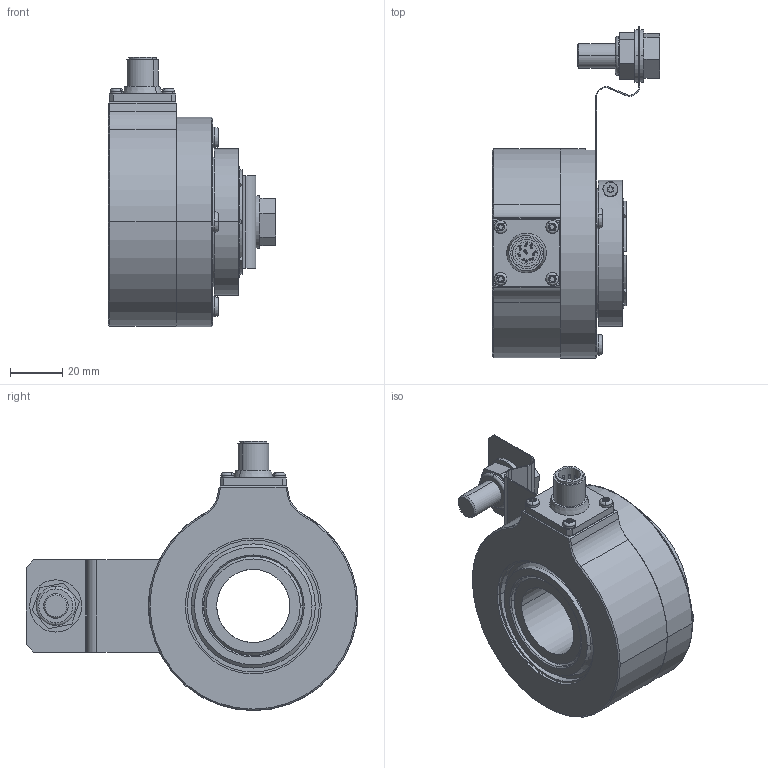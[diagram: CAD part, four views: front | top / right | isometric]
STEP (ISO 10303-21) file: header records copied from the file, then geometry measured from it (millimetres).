
FILE_DESCRIPTION (( 'STEP AP203' ), '1' );
FILE_NAME ('K80I.OXX.XXXXX.XH24828.6XRC5.step', '2025-12-09T10:34:54', ( '' ), ( '' ), 'SwSTEP 2.0', 'SolidWorks 2021', '' );
FILE_SCHEMA (( 'CONFIG_CONTROL_DESIGN' ));
Length unit declared in the file: millimetre
Products named in the file (1): K80I.OXX.XXXXX.XH24828.6XRC5
Bounding box: 63.95 x 127.03 x 103.08 mm (x, y, z)
Volume: 205371.7 mm3; surface area: 80258.5 mm2
Topology: 8 solids, 10 shells, 729 faces, 1913 edges, 1239 vertices
Faces by surface type: cylinder 325, plane 258, bspline 76, cone 42, sphere 16, torus 12
Entity records: 27740 total; most frequent: CARTESIAN_POINT 9834, ORIENTED_EDGE 3746, DIRECTION 3697, EDGE_CURVE 1873, AXIS2_PLACEMENT_3D 1396, VERTEX_POINT 1223, LINE 905, VECTOR 905
